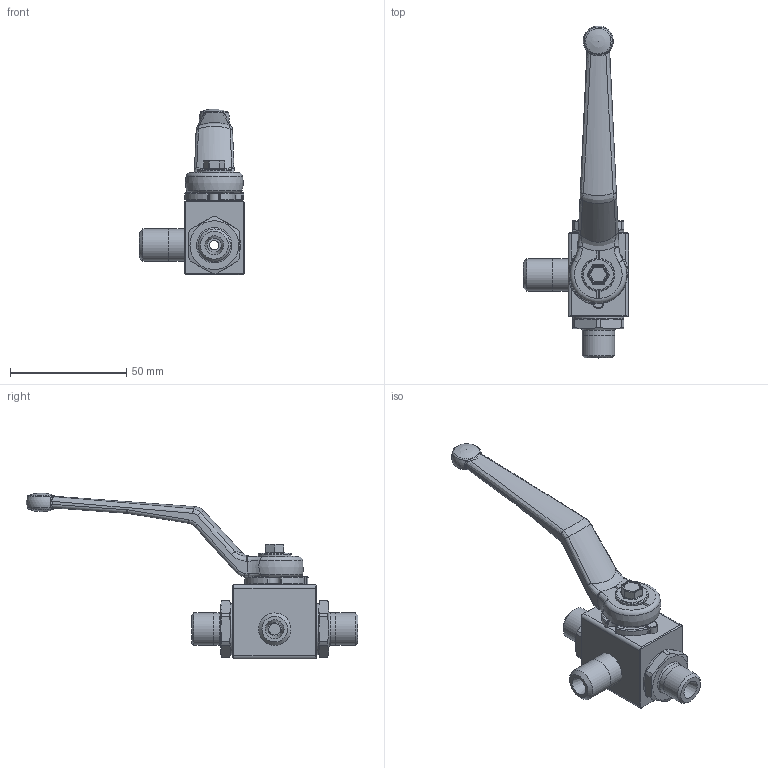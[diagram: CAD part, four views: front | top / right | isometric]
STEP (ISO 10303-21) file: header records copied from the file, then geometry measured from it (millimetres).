
FILE_DESCRIPTION( ( 'Unknown' ), '1' );
FILE_NAME( 'H:/PISTER/3D-MODELLE/BK3 stp/BK3 DN4 6S.stp', 'Unknown', ( 'Unknown' ), ( 'Unknown' ), 'PSStep 14.0', 'Unknown', ' ' );
FILE_SCHEMA( ( 'AUTOMOTIVE_DESIGN { 1 0 10303 214 1 1 1 1 }' ) );
Length unit declared in the file: millimetre
Products named in the file (10): Assem1; 06-008-059-oa7; 09-09-002; 58-28740-07-oa8; Griff_SW9; 58-0933-133; 04-004-007-oa9; 04-004-007-oa10; 01-008-014-oa11; 04-004-067-oa12
Assembly tree (9 placements, depth 2):
  Assem1
    06-008-059-oa7
    09-09-002
    58-28740-07-oa8
    Griff_SW9
    58-0933-133
    04-004-007-oa9
    04-004-007-oa10
    01-008-014-oa11
    04-004-067-oa12
Bounding box: 45.2 x 142.8 x 71.4 mm (x, y, z)
Volume: 29380.7 mm3; surface area: 22492.4 mm2
Topology: 9 solids, 9 shells, 390 faces, 959 edges, 577 vertices
Faces by surface type: cylinder 133, plane 125, bspline 42, torus 40, cone 30, sphere 20
Full cylindrical faces by diameter (mm): 4 x2, 4.134 x1, 4.98 x1, 5 x2, 6 x3, 14 x9, 14.3 x1, 22 x2, 22.5 x2
Entity records: 15860 total; most frequent: CARTESIAN_POINT 3962, DIRECTION 1853, ORIENTED_EDGE 1714, EDGE_CURVE 857, AXIS2_PLACEMENT_3D 756, VERTEX_POINT 550, EDGE_LOOP 472, FACE_OUTER_BOUND 425
